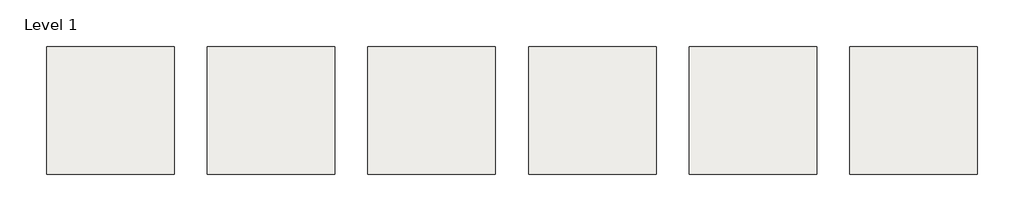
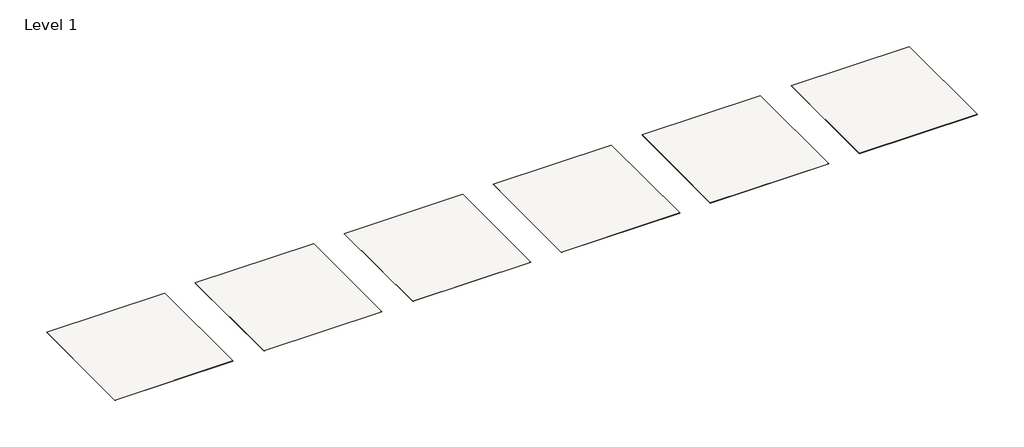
# One storey: 6 slabs.
"""IFC4 building model written with IfcOpenShell, lengths in millimetres."""

import ifcopenshell
import ifcopenshell.guid

model = None  # the IFC model being written
_history = None  # IfcOwnerHistory: only IFC2X3 demands one
_inside = {}  # id of a spatial element -> (the spatial element, [elements in it])
_under = {}  # id of a project, library or spatial element -> (it, [spatial elements below it])
_declared = {}  # id of a project -> (the project, [libraries it declares])
_typed = {}  # id of a type object -> (the type object, [elements of that type])
_made_of = {}  # id of a material, layer set ... -> (it, [elements and type objects made of it])


def new_model(schema):
    """Start an empty IFC model of exactly this schema.

    Asked for "IFC4X3", IfcOpenShell would pick the latest addendum, in which some entities
    have other attributes; the version numbers below select the first issue.
    IFC2X3 requires an IfcOwnerHistory on every rooted entity: one is made here for all.
    """
    global model, _history
    if schema == "IFC4X3":
        model = ifcopenshell.file(schema_version=(4, 3, 0, 0))
    else:
        model = ifcopenshell.file(schema=schema)
    _inside.clear()
    _under.clear()
    _declared.clear()
    _typed.clear()
    _made_of.clear()
    _history = None
    if model.schema == "IFC2X3":
        org = make("IfcOrganization", Name="unknown")
        user = make(
            "IfcPersonAndOrganization",
            ThePerson=make("IfcPerson", FamilyName="unknown"),
            TheOrganization=org,
        )
        app = make(
            "IfcApplication",
            ApplicationDeveloper=org,
            Version="unknown",
            ApplicationFullName="unknown",
            ApplicationIdentifier="unknown",
        )
        _history = make(
            "IfcOwnerHistory",
            OwningUser=user,
            OwningApplication=app,
            ChangeAction="ADDED",
            CreationDate=0,
        )
    return model


def make(cls, **values):
    """One entity of the class cls with the attributes given. An attribute that is None is left unset."""
    return model.create_entity(
        cls, **{name: value for name, value in values.items() if value is not None}
    )


def rooted(cls, **values):
    """An entity with a GlobalId (a new one), such as an element, a storey or a relation."""
    return make(cls, GlobalId=ifcopenshell.guid.new(), OwnerHistory=_history, **values)


def si_unit(unit_type, name, prefix=None):
    """IfcSIUnit, for example si_unit("LENGTHUNIT", "METRE", prefix="MILLI")."""
    return make("IfcSIUnit", UnitType=unit_type, Prefix=prefix, Name=name)


def assignment(units):
    """IfcUnitAssignment: the units of a project."""
    return None if units is None else make("IfcUnitAssignment", Units=units)


def point(xyz):
    """IfcCartesianPoint."""
    return None if xyz is None else make("IfcCartesianPoint", Coordinates=xyz)


def direction(xyz):
    """IfcDirection."""
    return None if xyz is None else make("IfcDirection", DirectionRatios=xyz)


def frame(location, z_axis=None, x_axis=None):
    """IfcAxis2Placement3D, a coordinate frame: its origin and axes. An axis left out is left unset."""
    return make(
        "IfcAxis2Placement3D",
        Location=point(location),
        Axis=direction(z_axis),
        RefDirection=direction(x_axis),
    )


def origin():
    """The frame at (0, 0, 0) with its axes left unset."""
    return frame((0.0, 0.0, 0.0))


def place(relative_to, where):
    """IfcLocalPlacement: puts the frame where relative to a parent placement (None: the world)."""
    return make(
        "IfcLocalPlacement", PlacementRelTo=relative_to, RelativePlacement=where
    )


def context(
    kind, dimensions, precision=None, world=None, true_north=None, identifier=None
):
    """IfcGeometricRepresentationContext, for example the 3D "Model" context."""
    return make(
        "IfcGeometricRepresentationContext",
        ContextIdentifier=identifier,
        ContextType=kind,
        CoordinateSpaceDimension=dimensions,
        Precision=precision,
        WorldCoordinateSystem=world,
        TrueNorth=true_north,
    )


def project(units=None, contexts=None):
    """IfcProject with its units and contexts."""
    return rooted(
        "IfcProject",
        Name="project",
        RepresentationContexts=contexts,
        UnitsInContext=assignment(units),
    )


def spatial(cls, under=None, at=None, **own):
    """A site, building, storey or space (cls), placed at a placement, below another one or the project."""
    s = rooted(cls, ObjectPlacement=at, **own)
    if under is not None:
        _under.setdefault(under.id(), (under, []))[1].append(s)
    return s


def polyline(points):
    """IfcPolyline through the points."""
    return make("IfcPolyline", Points=[point(p) for p in points])


def outline(outer, holes=None, kind="AREA"):
    """IfcArbitraryClosedProfileDef: a profile drawn as a closed curve; with holes, ...WithVoids."""
    if holes is None:
        return make("IfcArbitraryClosedProfileDef", ProfileType=kind, OuterCurve=outer)
    return make(
        "IfcArbitraryProfileDefWithVoids",
        ProfileType=kind,
        OuterCurve=outer,
        InnerCurves=holes,
    )


def extrude(swept, where, along, depth):
    """IfcExtrudedAreaSolid: the profile swept, set in the frame where, extruded along a direction by depth."""
    return make(
        "IfcExtrudedAreaSolid",
        SweptArea=swept,
        Position=where,
        ExtrudedDirection=direction(along),
        Depth=depth,
    )


def shape(context_of_items, identifier, shape_type, items):
    """IfcShapeRepresentation: the items that make up one representation, for example the "Body"."""
    return make(
        "IfcShapeRepresentation",
        ContextOfItems=context_of_items,
        RepresentationIdentifier=identifier,
        RepresentationType=shape_type,
        Items=items,
    )


def made_of(thing, what):
    """Note that an element or type object is made of a material, layer set ...; save() writes the relation."""
    if what is not None:
        _made_of.setdefault(what.id(), (what, []))[1].append(thing)
    return thing


def element(
    cls,
    number,
    at=None,
    inside=None,
    cuts=None,
    type_object=None,
    material=None,
    context=None,
    identifier="Body",
    shape_type=None,
    held_by="IfcProductDefinitionShape",
    body=None,
    shapes=None,
    **own,
):
    """One element of the class cls, such as IfcWall. Its Tag is "e" and its number.

    at: its placement. inside: the storey or other place that contains it. cuts: it is an
    opening in that element (IfcRelVoidsElement). A single representation is given by context,
    identifier, shape_type and body (its items); several are given by shapes. held_by: the class
    of the entity that holds the representations. save() writes the other relations.
    """
    e = rooted(cls, Tag="e%d" % number, ObjectPlacement=at, **own)
    if body is not None:
        shapes = [shape(context, identifier, shape_type, body)]
    if shapes is not None:
        e.Representation = make(held_by, Representations=shapes)
    if inside is not None:
        _inside.setdefault(inside.id(), (inside, []))[1].append(e)
    if cuts is not None:
        rooted(
            "IfcRelVoidsElement", RelatingBuildingElement=cuts, RelatedOpeningElement=e
        )
    if type_object is not None:
        _typed.setdefault(type_object.id(), (type_object, []))[1].append(e)
    return made_of(e, material)


def aggregate(whole, parts):
    """IfcRelAggregates: a whole, such as a stair, and the parts it consists of."""
    return rooted("IfcRelAggregates", RelatingObject=whole, RelatedObjects=parts)


def save(model, path):
    """Write the relations noted so far, then the file.

    IfcRelAggregates (storeys below a building ...), IfcRelContainedInSpatialStructure (elements
    in a storey), IfcRelDefinesByType, IfcRelAssociatesMaterial and IfcRelDeclares: one each for
    every whole, place, type object, material and project.
    """
    for whole, parts in _under.values():
        aggregate(whole, parts)
    for where, things in _inside.values():
        rooted(
            "IfcRelContainedInSpatialStructure",
            RelatedElements=things,
            RelatingStructure=where,
        )
    for kind, things in _typed.values():
        rooted("IfcRelDefinesByType", RelatedObjects=things, RelatingType=kind)
    for what, things in _made_of.values():
        rooted("IfcRelAssociatesMaterial", RelatedObjects=things, RelatingMaterial=what)
    for by, libraries in _declared.values():
        rooted("IfcRelDeclares", RelatingContext=by, RelatedDefinitions=libraries)
    model.write(path)


model = new_model("IFC4")

# Units and contexts
model_context = context("Model", 3, world=origin())
ifc_project = project(units=[si_unit("LENGTHUNIT", "METRE", prefix="MILLI")], contexts=[model_context])

# Site, building, storey
site = spatial("IfcSite", under=ifc_project)
building = spatial("IfcBuilding", under=site)
storey = spatial("IfcBuildingStorey", under=building, Name="Level 1", Elevation=0.0)

# Slabs
placement = place(None, origin())
element("IfcSlab", 1, ObjectType="Thesize_Neolith_3mm+-Pulpis- 3200x1500 mm - Silk", at=placement, inside=storey, context=model_context, shape_type="SweptSolid", body=[
    extrude(outline(polyline([(18632.6076717, -57557.477561), (18632.6076717, -62557.477561), (13632.6076717, -62557.477561), (13632.6076717, -57557.477561), (18632.6076717, -57557.477561)])), frame((0.0, 0.0, -3.0), z_axis=(0.0, 0.0, 1.0), x_axis=(1.0, 0.0, 0.0)), (0.0, 0.0, 1.0), 3.0),
])
element("IfcSlab", 2, ObjectType="Thesize_Neolith_6mm+-Pulpis- 3200x1500 mm - Polish", at=placement, inside=storey, context=model_context, shape_type="SweptSolid", body=[
    extrude(outline(polyline([(24932.6076717, -57557.477561), (24932.6076717, -62557.477561), (19932.6076717, -62557.477561), (19932.6076717, -57557.477561), (24932.6076717, -57557.477561)])), frame((0.0, 0.0, -6.0), z_axis=(0.0, 0.0, 1.0), x_axis=(1.0, 0.0, 0.0)), (0.0, 0.0, 1.0), 6.0),
])
element("IfcSlab", 3, ObjectType="Thesize_Neolith_12mm-Pulpis - 3200x1600 mm - Polish", at=placement, inside=storey, context=model_context, shape_type="SweptSolid", body=[
    extrude(outline(polyline([(31232.6076717, -57557.477561), (31232.6076717, -62557.477561), (26232.6076717, -62557.477561), (26232.6076717, -57557.477561), (31232.6076717, -57557.477561)])), frame((0.0, 0.0, -12.0), z_axis=(0.0, 0.0, 1.0), x_axis=(1.0, 0.0, 0.0)), (0.0, 0.0, 1.0), 12.0),
])
element("IfcSlab", 4, ObjectType="Thesize_Neolith_12mm-Pulpis - 3200x1600 mm - Silk", at=placement, inside=storey, context=model_context, shape_type="SweptSolid", body=[
    extrude(outline(polyline([(37532.6076717, -57557.477561), (37532.6076717, -62557.477561), (32532.6076717, -62557.477561), (32532.6076717, -57557.477561), (37532.6076717, -57557.477561)])), frame((0.0, 0.0, -12.0), z_axis=(0.0, 0.0, 1.0), x_axis=(1.0, 0.0, 0.0)), (0.0, 0.0, 1.0), 12.0),
])
element("IfcSlab", 5, ObjectType="Thesize_Neolith_6mm+-Pulpis- 3200x1500 mm - Silk", at=placement, inside=storey, context=model_context, shape_type="SweptSolid", body=[
    extrude(outline(polyline([(12332.6076717, -57557.477561), (12332.6076717, -62557.477561), (7332.6076717, -62557.477561), (7332.6076717, -57557.477561), (12332.6076717, -57557.477561)])), frame((0.0, 0.0, -6.0), z_axis=(0.0, 0.0, 1.0), x_axis=(1.0, 0.0, 0.0)), (0.0, 0.0, 1.0), 6.0),
])
element("IfcSlab", 6, ObjectType="Thesize_Neolith_6mm-Pulpis- 2600x1200 mm - Silk", at=placement, inside=storey, context=model_context, shape_type="SweptSolid", body=[
    extrude(outline(polyline([(6032.6076717, -57557.477561), (6032.6076717, -62557.477561), (1032.6076717, -62557.477561), (1032.6076717, -57557.477561), (6032.6076717, -57557.477561)])), frame((0.0, 0.0, -6.0), z_axis=(0.0, 0.0, 1.0), x_axis=(1.0, 0.0, 0.0)), (0.0, 0.0, 1.0), 6.0),
])

save(model, "model.ifc")
